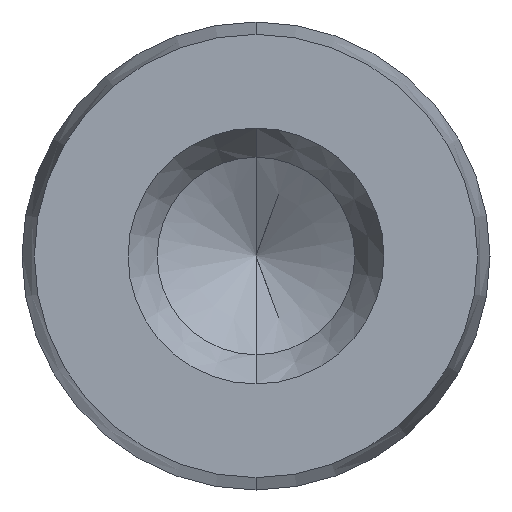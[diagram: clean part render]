
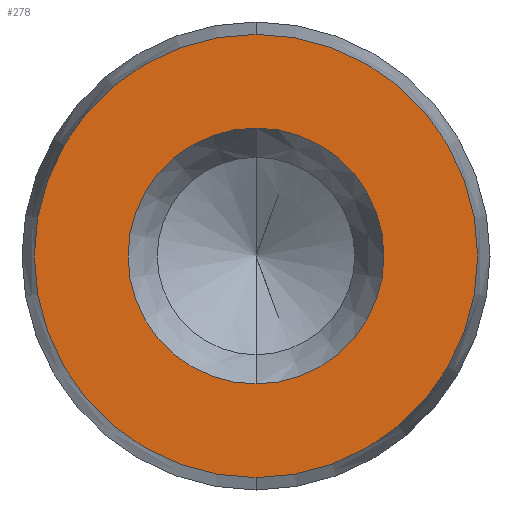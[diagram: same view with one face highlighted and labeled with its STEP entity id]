
A CAD part, front view. The second image highlights one B-rep face of the part: STEP entity #278.
In plain terms, the highlighted planar face has unit normal (0, -1, 0).
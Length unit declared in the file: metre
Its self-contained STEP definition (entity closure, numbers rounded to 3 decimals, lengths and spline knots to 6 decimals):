
#1 = ORIENTED_EDGE ( 'NONE', *, *, #150, .T. ) ;
#11 = ORIENTED_EDGE ( 'NONE', *, *, #157, .F. ) ;
#29 = EDGE_LOOP ( 'NONE', ( #1, #90 ) ) ;
#44 = EDGE_LOOP ( 'NONE', ( #11, #88 ) ) ;
#76 = VERTEX_POINT ( 'NONE', #391 ) ;
#88 = ORIENTED_EDGE ( 'NONE', *, *, #181, .F. ) ;
#90 = ORIENTED_EDGE ( 'NONE', *, *, #189, .T. ) ;
#95 = VERTEX_POINT ( 'NONE', #508 ) ;
#111 = VERTEX_POINT ( 'NONE', #346 ) ;
#122 = VERTEX_POINT ( 'NONE', #547 ) ;
#147 = AXIS2_PLACEMENT_3D ( 'NONE', #462, #421, #416 ) ;
#150 = EDGE_CURVE ( 'NONE', #95, #76, #166, .T. ) ;
#157 = EDGE_CURVE ( 'NONE', #122, #111, #182, .T. ) ;
#166 = CIRCLE ( 'NONE', #186, 0.007578 ) ;
#181 = EDGE_CURVE ( 'NONE', #111, #122, #303, .T. ) ;
#182 = CIRCLE ( 'NONE', #147, 0.004375 ) ;
#186 = AXIS2_PLACEMENT_3D ( 'NONE', #455, #348, #425 ) ;
#189 = EDGE_CURVE ( 'NONE', #76, #95, #285, .T. ) ;
#232 = AXIS2_PLACEMENT_3D ( 'NONE', #501, #503, #428 ) ;
#278 = ADVANCED_FACE ( 'NONE', ( #464, #461 ), #409, .T. ) ;
#285 = CIRCLE ( 'NONE', #287, 0.007578 ) ;
#287 = AXIS2_PLACEMENT_3D ( 'NONE', #552, #386, #546 ) ;
#303 = CIRCLE ( 'NONE', #305, 0.004375 ) ;
#305 = AXIS2_PLACEMENT_3D ( 'NONE', #403, #397, #404 ) ;
#346 = CARTESIAN_POINT ( 'NONE',  ( 0., 0., 0.004375 ) ) ;
#348 = DIRECTION ( 'NONE',  ( 0., -1., 0. ) ) ;
#386 = DIRECTION ( 'NONE',  ( 0., -1., 0. ) ) ;
#391 = CARTESIAN_POINT ( 'NONE',  ( 0., 0., -0.007578 ) ) ;
#397 = DIRECTION ( 'NONE',  ( 0., -1., 0. ) ) ;
#403 = CARTESIAN_POINT ( 'NONE',  ( 0., 0., 0. ) ) ;
#404 = DIRECTION ( 'NONE',  ( 0., 0., -1. ) ) ;
#409 = PLANE ( 'NONE',  #232 ) ;
#416 = DIRECTION ( 'NONE',  ( 0., 0., -1. ) ) ;
#421 = DIRECTION ( 'NONE',  ( 0., -1., 0. ) ) ;
#425 = DIRECTION ( 'NONE',  ( 0., 0., -1. ) ) ;
#428 = DIRECTION ( 'NONE',  ( 0., 0., -1. ) ) ;
#455 = CARTESIAN_POINT ( 'NONE',  ( 0., 0., 0. ) ) ;
#461 = FACE_BOUND ( 'NONE', #44, .T. ) ;
#462 = CARTESIAN_POINT ( 'NONE',  ( 0., 0., 0. ) ) ;
#464 = FACE_OUTER_BOUND ( 'NONE', #29, .T. ) ;
#501 = CARTESIAN_POINT ( 'NONE',  ( 0.004375, 0., 0. ) ) ;
#503 = DIRECTION ( 'NONE',  ( 0., -1., 0. ) ) ;
#508 = CARTESIAN_POINT ( 'NONE',  ( 0., 0., 0.007578 ) ) ;
#546 = DIRECTION ( 'NONE',  ( 0., 0., -1. ) ) ;
#547 = CARTESIAN_POINT ( 'NONE',  ( 0., 0., -0.004375 ) ) ;
#552 = CARTESIAN_POINT ( 'NONE',  ( 0., 0., 0. ) ) ;
